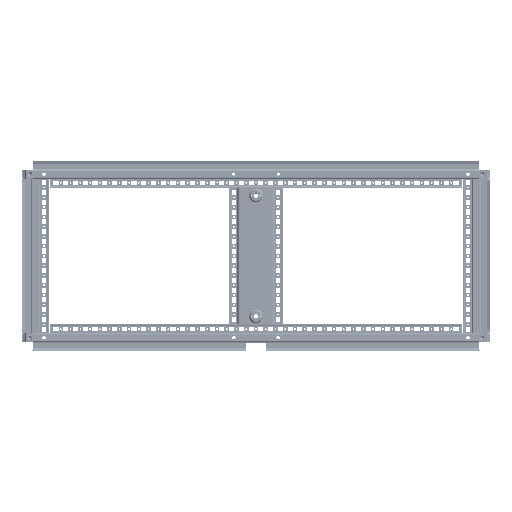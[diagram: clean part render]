
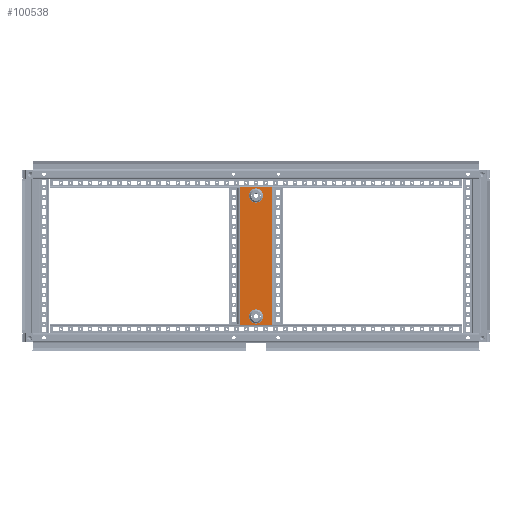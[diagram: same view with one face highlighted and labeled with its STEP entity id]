
A CAD part, front view. The second image highlights one B-rep face of the part: STEP entity #100538.
In plain terms, the highlighted planar face has unit normal (0, -1, 0) as drawn and (0, 0, -1) by its records, which use the part's own axes.
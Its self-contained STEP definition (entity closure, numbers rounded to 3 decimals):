
#5715 = VECTOR ( 'NONE', #9493, 39.37 ) ;
#5723 = LINE ( 'NONE', #9474, #5724 ) ;
#5724 = VECTOR ( 'NONE', #9476, 39.37 ) ;
#5726 = LINE ( 'NONE', #9492, #5715 ) ;
#5727 = LINE ( 'NONE', #9481, #5728 ) ;
#5728 = VECTOR ( 'NONE', #9483, 39.37 ) ;
#5735 = LINE ( 'NONE', #9524, #5736 ) ;
#5736 = VECTOR ( 'NONE', #9525, 39.37 ) ;
#5742 = VECTOR ( 'NONE', #9540, 39.37 ) ;
#5746 = LINE ( 'NONE', #9538, #5742 ) ;
#5747 = LINE ( 'NONE', #9557, #5757 ) ;
#5753 = LINE ( 'NONE', #9567, #5763 ) ;
#5754 = CIRCLE ( 'NONE', #7285, 0.719 ) ;
#5756 = CIRCLE ( 'NONE', #7279, 0.719 ) ;
#5757 = VECTOR ( 'NONE', #9562, 39.37 ) ;
#5758 = LINE ( 'NONE', #9572, #5767 ) ;
#5759 = LINE ( 'NONE', #9563, #5760 ) ;
#5760 = VECTOR ( 'NONE', #9565, 39.37 ) ;
#5763 = VECTOR ( 'NONE', #9574, 39.37 ) ;
#5764 = LINE ( 'NONE', #9583, #5771 ) ;
#5767 = VECTOR ( 'NONE', #9582, 39.37 ) ;
#5768 = LINE ( 'NONE', #9588, #5777 ) ;
#5771 = VECTOR ( 'NONE', #9590, 39.37 ) ;
#5773 = LINE ( 'NONE', #9592, #5774 ) ;
#5774 = VECTOR ( 'NONE', #9594, 39.37 ) ;
#5777 = VECTOR ( 'NONE', #9602, 39.37 ) ;
#6524 = EDGE_CURVE ( 'NONE', #14822, #14416, #5723, .T. ) ;
#6526 = EDGE_CURVE ( 'NONE', #13255, #13322, #5727, .T. ) ;
#6528 = EDGE_CURVE ( 'NONE', #13258, #14405, #5726, .T. ) ;
#6536 = EDGE_CURVE ( 'NONE', #14822, #14405, #5735, .T. ) ;
#6539 = EDGE_CURVE ( 'NONE', #14416, #14417, #5746, .T. ) ;
#6541 = EDGE_CURVE ( 'NONE', #14500, #14535, #5754, .T. ) ;
#6542 = EDGE_CURVE ( 'NONE', #14616, #14604, #5756, .T. ) ;
#6544 = EDGE_CURVE ( 'NONE', #13255, #13217, #5747, .T. ) ;
#6545 = EDGE_CURVE ( 'NONE', #13322, #13258, #5759, .T. ) ;
#6547 = EDGE_CURVE ( 'NONE', #13217, #13222, #5753, .T. ) ;
#6549 = EDGE_CURVE ( 'NONE', #13302, #13222, #5758, .T. ) ;
#6551 = EDGE_CURVE ( 'NONE', #13302, #13252, #5764, .T. ) ;
#6552 = EDGE_CURVE ( 'NONE', #13252, #13307, #5773, .T. ) ;
#6554 = EDGE_CURVE ( 'NONE', #13307, #14417, #5768, .T. ) ;
#7279 = AXIS2_PLACEMENT_3D ( 'NONE', #9550, #9553, #9555 ) ;
#7285 = AXIS2_PLACEMENT_3D ( 'NONE', #9545, #9547, #9548 ) ;
#9474 = CARTESIAN_POINT ( 'NONE',  ( 6.85, -2.736, 0. ) ) ;
#9476 = DIRECTION ( 'NONE',  ( 0., 1., 0. ) ) ;
#9481 = CARTESIAN_POINT ( 'NONE',  ( -6.968, -1.833, 0. ) ) ;
#9483 = DIRECTION ( 'NONE',  ( 0., -1., 0. ) ) ;
#9492 = CARTESIAN_POINT ( 'NONE',  ( -6.85, -2.736, 0. ) ) ;
#9493 = DIRECTION ( 'NONE',  ( 0., -1., 0. ) ) ;
#9524 = CARTESIAN_POINT ( 'NONE',  ( 6.968, -1.646, 0. ) ) ;
#9525 = DIRECTION ( 'NONE',  ( -1., 0., 0. ) ) ;
#9538 = CARTESIAN_POINT ( 'NONE',  ( 6.968, -1.575, 0. ) ) ;
#9540 = DIRECTION ( 'NONE',  ( 1., 0., 0. ) ) ;
#9545 = CARTESIAN_POINT ( 'NONE',  ( -6.098, 0., 0. ) ) ;
#9547 = DIRECTION ( 'NONE',  ( 0., 0., -1. ) ) ;
#9548 = DIRECTION ( 'NONE',  ( -1., 0., 0. ) ) ;
#9550 = CARTESIAN_POINT ( 'NONE',  ( 6.098, 0., 0. ) ) ;
#9553 = DIRECTION ( 'NONE',  ( 0., 0., -1. ) ) ;
#9555 = DIRECTION ( 'NONE',  ( -1., 0., 0. ) ) ;
#9557 = CARTESIAN_POINT ( 'NONE',  ( -6.968, 1.575, 0. ) ) ;
#9562 = DIRECTION ( 'NONE',  ( 1., 0., 0. ) ) ;
#9563 = CARTESIAN_POINT ( 'NONE',  ( -6.968, -1.575, 0. ) ) ;
#9565 = DIRECTION ( 'NONE',  ( 1., 0., 0. ) ) ;
#9567 = CARTESIAN_POINT ( 'NONE',  ( -6.85, 2.736, 0. ) ) ;
#9572 = CARTESIAN_POINT ( 'NONE',  ( 6.968, 1.646, 0. ) ) ;
#9574 = DIRECTION ( 'NONE',  ( 0., 1., 0. ) ) ;
#9582 = DIRECTION ( 'NONE',  ( -1., 0., 0. ) ) ;
#9583 = CARTESIAN_POINT ( 'NONE',  ( 6.85, 2.736, 0. ) ) ;
#9588 = CARTESIAN_POINT ( 'NONE',  ( 6.968, -1.833, 0. ) ) ;
#9590 = DIRECTION ( 'NONE',  ( 0., -1., 0. ) ) ;
#9592 = CARTESIAN_POINT ( 'NONE',  ( 6.968, 1.575, 0. ) ) ;
#9594 = DIRECTION ( 'NONE',  ( 1., 0., 0. ) ) ;
#9602 = DIRECTION ( 'NONE',  ( 0., -1., 0. ) ) ;
#13217 = VERTEX_POINT ( 'NONE', #94199 ) ;
#13222 = VERTEX_POINT ( 'NONE', #94204 ) ;
#13252 = VERTEX_POINT ( 'NONE', #94243 ) ;
#13255 = VERTEX_POINT ( 'NONE', #94248 ) ;
#13258 = VERTEX_POINT ( 'NONE', #94253 ) ;
#13302 = VERTEX_POINT ( 'NONE', #94315 ) ;
#13307 = VERTEX_POINT ( 'NONE', #94323 ) ;
#13322 = VERTEX_POINT ( 'NONE', #94345 ) ;
#14405 = VERTEX_POINT ( 'NONE', #95963 ) ;
#14416 = VERTEX_POINT ( 'NONE', #95983 ) ;
#14417 = VERTEX_POINT ( 'NONE', #95985 ) ;
#14500 = VERTEX_POINT ( 'NONE', #96134 ) ;
#14535 = VERTEX_POINT ( 'NONE', #96197 ) ;
#14604 = VERTEX_POINT ( 'NONE', #96321 ) ;
#14616 = VERTEX_POINT ( 'NONE', #96343 ) ;
#14822 = VERTEX_POINT ( 'NONE', #24185 ) ;
#21400 = EDGE_CURVE ( 'NONE', #14535, #14500, #26759, .T. ) ;
#21417 = EDGE_CURVE ( 'NONE', #14604, #14616, #26779, .T. ) ;
#22998 = AXIS2_PLACEMENT_3D ( 'NONE', #28535, #28538, #28540 ) ;
#23012 = AXIS2_PLACEMENT_3D ( 'NONE', #28632, #28649, #28651 ) ;
#24185 = CARTESIAN_POINT ( 'NONE',  ( 6.85, -1.646, 0. ) ) ;
#26759 = CIRCLE ( 'NONE', #22998, 0.719 ) ;
#26779 = CIRCLE ( 'NONE', #23012, 0.719 ) ;
#28535 = CARTESIAN_POINT ( 'NONE',  ( -6.098, 0., 0. ) ) ;
#28538 = DIRECTION ( 'NONE',  ( 0., 0., -1. ) ) ;
#28540 = DIRECTION ( 'NONE',  ( -1., 0., 0. ) ) ;
#28632 = CARTESIAN_POINT ( 'NONE',  ( 6.098, 0., 0. ) ) ;
#28649 = DIRECTION ( 'NONE',  ( 0., 0., -1. ) ) ;
#28651 = DIRECTION ( 'NONE',  ( -1., 0., 0. ) ) ;
#50841 = ORIENTED_EDGE ( 'NONE', *, *, #6541, .F. ) ;
#50843 = ORIENTED_EDGE ( 'NONE', *, *, #21400, .F. ) ;
#50845 = ORIENTED_EDGE ( 'NONE', *, *, #6542, .F. ) ;
#50847 = ORIENTED_EDGE ( 'NONE', *, *, #21417, .F. ) ;
#50849 = ORIENTED_EDGE ( 'NONE', *, *, #6539, .F. ) ;
#50850 = ORIENTED_EDGE ( 'NONE', *, *, #6524, .F. ) ;
#50852 = ORIENTED_EDGE ( 'NONE', *, *, #6536, .T. ) ;
#50854 = ORIENTED_EDGE ( 'NONE', *, *, #6528, .F. ) ;
#50856 = ORIENTED_EDGE ( 'NONE', *, *, #6545, .F. ) ;
#50858 = ORIENTED_EDGE ( 'NONE', *, *, #6526, .F. ) ;
#50860 = ORIENTED_EDGE ( 'NONE', *, *, #6544, .T. ) ;
#50862 = ORIENTED_EDGE ( 'NONE', *, *, #6547, .T. ) ;
#50863 = ORIENTED_EDGE ( 'NONE', *, *, #6549, .F. ) ;
#50865 = ORIENTED_EDGE ( 'NONE', *, *, #6551, .T. ) ;
#50867 = ORIENTED_EDGE ( 'NONE', *, *, #6552, .T. ) ;
#50869 = ORIENTED_EDGE ( 'NONE', *, *, #6554, .T. ) ;
#54198 = EDGE_LOOP ( 'NONE', ( #50849, #50850, #50852, #50854, #50856, #50858, #50860, #50862, #50863, #50865, #50867, #50869 ) ) ;
#54200 = EDGE_LOOP ( 'NONE', ( #50845, #50847 ) ) ;
#54920 = EDGE_LOOP ( 'NONE', ( #50841, #50843 ) ) ;
#82986 = AXIS2_PLACEMENT_3D ( 'NONE', #84585, #84587, #84588 ) ;
#84585 = CARTESIAN_POINT ( 'NONE',  ( 6.968, -1.833, 0. ) ) ;
#84586 = PLANE ( 'NONE',  #82986 ) ;
#84587 = DIRECTION ( 'NONE',  ( 0., 0., -1. ) ) ;
#84588 = DIRECTION ( 'NONE',  ( 0., 1., 0. ) ) ;
#85402 = FACE_BOUND ( 'NONE', #54920, .T. ) ;
#85409 = FACE_BOUND ( 'NONE', #54200, .T. ) ;
#85411 = FACE_OUTER_BOUND ( 'NONE', #54198, .T. ) ;
#94199 = CARTESIAN_POINT ( 'NONE',  ( -6.85, 1.575, 0. ) ) ;
#94204 = CARTESIAN_POINT ( 'NONE',  ( -6.85, 1.646, 0. ) ) ;
#94243 = CARTESIAN_POINT ( 'NONE',  ( 6.85, 1.575, 0. ) ) ;
#94248 = CARTESIAN_POINT ( 'NONE',  ( -6.968, 1.575, 0. ) ) ;
#94253 = CARTESIAN_POINT ( 'NONE',  ( -6.85, -1.575, 0. ) ) ;
#94315 = CARTESIAN_POINT ( 'NONE',  ( 6.85, 1.646, 0. ) ) ;
#94323 = CARTESIAN_POINT ( 'NONE',  ( 6.968, 1.575, 0. ) ) ;
#94345 = CARTESIAN_POINT ( 'NONE',  ( -6.968, -1.575, 0. ) ) ;
#95963 = CARTESIAN_POINT ( 'NONE',  ( -6.85, -1.646, 0. ) ) ;
#95983 = CARTESIAN_POINT ( 'NONE',  ( 6.85, -1.575, 0. ) ) ;
#95985 = CARTESIAN_POINT ( 'NONE',  ( 6.968, -1.575, 0. ) ) ;
#96134 = CARTESIAN_POINT ( 'NONE',  ( -6.098, 0.719, 0. ) ) ;
#96197 = CARTESIAN_POINT ( 'NONE',  ( -6.098, -0.719, 0. ) ) ;
#96321 = CARTESIAN_POINT ( 'NONE',  ( 6.098, -0.719, 0. ) ) ;
#96343 = CARTESIAN_POINT ( 'NONE',  ( 6.098, 0.719, 0. ) ) ;
#100538 = ADVANCED_FACE ( 'NONE', ( #85402, #85409, #85411 ), #84586, .T. ) ;
